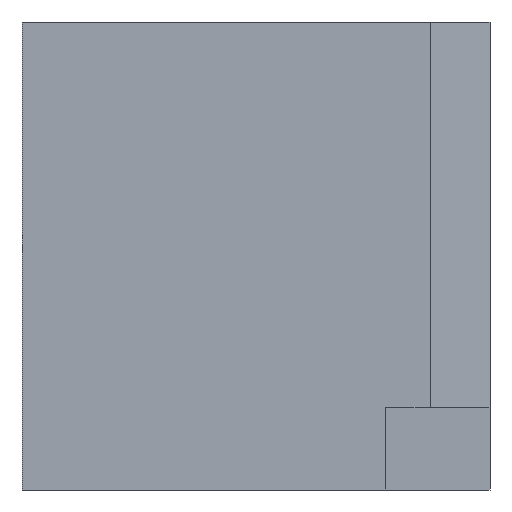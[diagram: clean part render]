
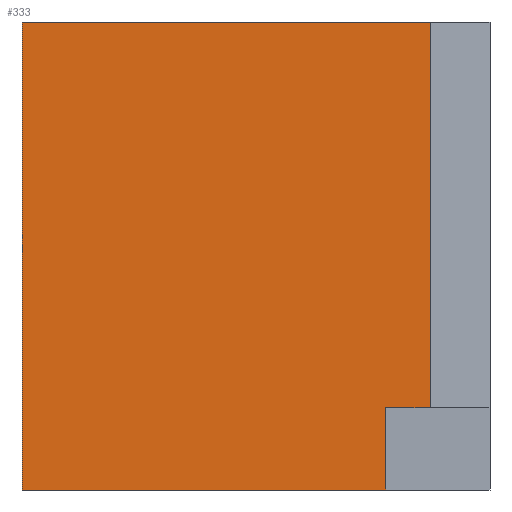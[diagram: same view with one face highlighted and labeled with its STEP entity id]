
A CAD part, left-side view. The second image highlights one B-rep face of the part: STEP entity #333.
In plain terms, the highlighted planar face has unit normal (-1, 0, 0).
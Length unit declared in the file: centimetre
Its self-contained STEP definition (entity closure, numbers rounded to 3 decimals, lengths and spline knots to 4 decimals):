
#3 = VECTOR ( 'NONE', #353, 100. ) ;
#46 = DIRECTION ( 'NONE',  ( 0., -1., 0. ) ) ;
#50 = EDGE_CURVE ( 'NONE', #331, #128, #325, .T. ) ;
#96 = VERTEX_POINT ( 'NONE', #420 ) ;
#97 = LINE ( 'NONE', #457, #111 ) ;
#111 = VECTOR ( 'NONE', #46, 100. ) ;
#127 = ORIENTED_EDGE ( 'NONE', *, *, #599, .T. ) ;
#128 = VERTEX_POINT ( 'NONE', #655 ) ;
#133 = DIRECTION ( 'NONE',  ( 0., 0., -1. ) ) ;
#136 = CARTESIAN_POINT ( 'NONE',  ( 0., 223.2728, 0. ) ) ;
#140 = CARTESIAN_POINT ( 'NONE',  ( 0., 223.2728, 0. ) ) ;
#158 = ORIENTED_EDGE ( 'NONE', *, *, #244, .F. ) ;
#169 = DIRECTION ( 'NONE',  ( 0., 0., -1. ) ) ;
#174 = VERTEX_POINT ( 'NONE', #323 ) ;
#180 = CARTESIAN_POINT ( 'NONE',  ( 0., 1000., 1000. ) ) ;
#197 = CARTESIAN_POINT ( 'NONE',  ( 0., 1000., 1000. ) ) ;
#198 = ORIENTED_EDGE ( 'NONE', *, *, #454, .F. ) ;
#203 = VECTOR ( 'NONE', #395, 100. ) ;
#218 = DIRECTION ( 'NONE',  ( 1., 0., 0. ) ) ;
#221 = ORIENTED_EDGE ( 'NONE', *, *, #50, .T. ) ;
#239 = LINE ( 'NONE', #628, #532 ) ;
#244 = EDGE_CURVE ( 'NONE', #174, #592, #442, .T. ) ;
#269 = VERTEX_POINT ( 'NONE', #304 ) ;
#272 = FACE_OUTER_BOUND ( 'NONE', #291, .T. ) ;
#291 = EDGE_LOOP ( 'NONE', ( #463, #158, #433, #127, #198, #221 ) ) ;
#304 = CARTESIAN_POINT ( 'NONE',  ( 0., 127.6555, 1000. ) ) ;
#305 = CARTESIAN_POINT ( 'NONE',  ( 0., 0., 175.3311 ) ) ;
#323 = CARTESIAN_POINT ( 'NONE',  ( 0., 223.2728, 175.3311 ) ) ;
#325 = LINE ( 'NONE', #180, #643 ) ;
#331 = VERTEX_POINT ( 'NONE', #474 ) ;
#333 = ADVANCED_FACE ( 'NONE', ( #272 ), #440, .F. ) ;
#353 = DIRECTION ( 'NONE',  ( 0., 1., 0. ) ) ;
#356 = AXIS2_PLACEMENT_3D ( 'NONE', #611, #218, #133 ) ;
#364 = LINE ( 'NONE', #305, #3 ) ;
#395 = DIRECTION ( 'NONE',  ( 0., 0., -1. ) ) ;
#406 = EDGE_CURVE ( 'NONE', #96, #174, #364, .T. ) ;
#420 = CARTESIAN_POINT ( 'NONE',  ( 0., 127.6555, 175.3311 ) ) ;
#433 = ORIENTED_EDGE ( 'NONE', *, *, #406, .F. ) ;
#440 = PLANE ( 'NONE',  #356 ) ;
#442 = LINE ( 'NONE', #140, #203 ) ;
#454 = EDGE_CURVE ( 'NONE', #331, #269, #499, .T. ) ;
#457 = CARTESIAN_POINT ( 'NONE',  ( 0., 1000., 0. ) ) ;
#463 = ORIENTED_EDGE ( 'NONE', *, *, #639, .T. ) ;
#474 = CARTESIAN_POINT ( 'NONE',  ( 0., 1000., 1000. ) ) ;
#499 = LINE ( 'NONE', #197, #531 ) ;
#531 = VECTOR ( 'NONE', #661, 100. ) ;
#532 = VECTOR ( 'NONE', #676, 100. ) ;
#592 = VERTEX_POINT ( 'NONE', #136 ) ;
#599 = EDGE_CURVE ( 'NONE', #96, #269, #239, .T. ) ;
#611 = CARTESIAN_POINT ( 'NONE',  ( 0., 1000., 1000. ) ) ;
#628 = CARTESIAN_POINT ( 'NONE',  ( 0., 127.6555, 1000. ) ) ;
#639 = EDGE_CURVE ( 'NONE', #128, #592, #97, .T. ) ;
#643 = VECTOR ( 'NONE', #169, 100. ) ;
#655 = CARTESIAN_POINT ( 'NONE',  ( 0., 1000., 0. ) ) ;
#661 = DIRECTION ( 'NONE',  ( 0., -1., 0. ) ) ;
#676 = DIRECTION ( 'NONE',  ( 0., 0., 1. ) ) ;
